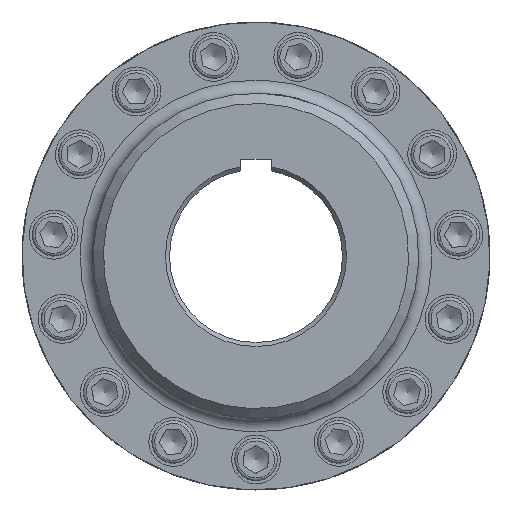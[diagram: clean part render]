
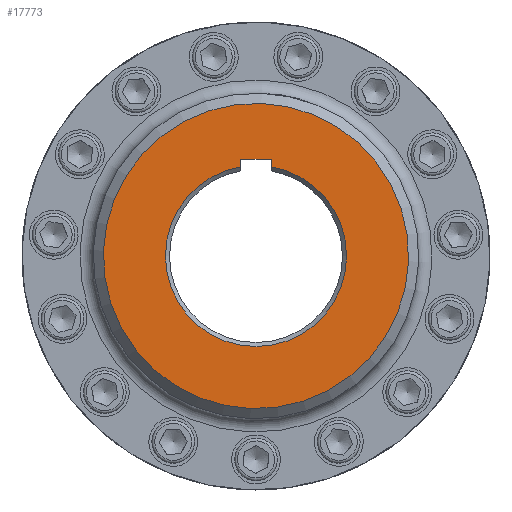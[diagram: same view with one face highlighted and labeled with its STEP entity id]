
A CAD part, left-side view. The second image highlights one B-rep face of the part: STEP entity #17773.
In plain terms, the highlighted planar face has unit normal (-1, 0, 0).
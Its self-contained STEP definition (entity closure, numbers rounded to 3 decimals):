
#834=LINE('',#29371,#1752);
#835=LINE('',#29373,#1753);
#836=LINE('',#29374,#1754);
#1752=VECTOR('',#23449,3.637);
#1753=VECTOR('',#23450,15.);
#1754=VECTOR('',#23451,3.637);
#3155=FACE_BOUND('',#5413,.T.);
#3959=FACE_OUTER_BOUND('',#5412,.T.);
#5412=EDGE_LOOP('',(#13408));
#5413=EDGE_LOOP('',(#13409,#13410,#13411,#13412));
#6617=CIRCLE('',#19504,75.);
#6618=CIRCLE('',#19505,44.5);
#8028=VERTEX_POINT('',#29365);
#8029=VERTEX_POINT('',#29367);
#8030=VERTEX_POINT('',#29368);
#8031=VERTEX_POINT('',#29370);
#8032=VERTEX_POINT('',#29372);
#9932=EDGE_CURVE('',#8028,#8028,#6617,.T.);
#9933=EDGE_CURVE('',#8029,#8030,#6618,.T.);
#9934=EDGE_CURVE('',#8029,#8031,#834,.T.);
#9935=EDGE_CURVE('',#8031,#8032,#835,.T.);
#9936=EDGE_CURVE('',#8032,#8030,#836,.T.);
#13408=ORIENTED_EDGE('',*,*,#9932,.F.);
#13409=ORIENTED_EDGE('',*,*,#9933,.F.);
#13410=ORIENTED_EDGE('',*,*,#9934,.T.);
#13411=ORIENTED_EDGE('',*,*,#9935,.T.);
#13412=ORIENTED_EDGE('',*,*,#9936,.T.);
#15810=PLANE('',#19503);
#17773=ADVANCED_FACE('',(#3959,#3155),#15810,.T.);
#19503=AXIS2_PLACEMENT_3D('',#29364,#23443,#23444);
#19504=AXIS2_PLACEMENT_3D('',#29366,#23445,#23446);
#19505=AXIS2_PLACEMENT_3D('',#29369,#23447,#23448);
#23443=DIRECTION('center_axis',(-1.,0.,0.));
#23444=DIRECTION('ref_axis',(0.,0.208,-0.978));
#23445=DIRECTION('center_axis',(1.,0.,0.));
#23446=DIRECTION('ref_axis',(0.,0.978,0.208));
#23447=DIRECTION('center_axis',(-1.,0.,0.));
#23448=DIRECTION('ref_axis',(0.,0.176,-0.984));
#23449=DIRECTION('',(0.,0.,1.));
#23450=DIRECTION('',(0.,-1.,0.));
#23451=DIRECTION('',(0.,0.,-1.));
#29364=CARTESIAN_POINT('Origin',(-354.75,-51.353,-10.915));
#29365=CARTESIAN_POINT('',(-354.75,-73.361,-15.593));
#29366=CARTESIAN_POINT('Origin',(-354.75,0.,
0.));
#29367=CARTESIAN_POINT('',(-354.75,7.5,43.863));
#29368=CARTESIAN_POINT('',(-354.75,-7.5,43.863));
#29369=CARTESIAN_POINT('Origin',(-354.75,0.,
0.));
#29370=CARTESIAN_POINT('',(-354.75,7.5,47.5));
#29371=CARTESIAN_POINT('',(-354.75,7.5,15.459));
#29372=CARTESIAN_POINT('',(-354.75,-7.5,47.5));
#29373=CARTESIAN_POINT('',(-354.75,-21.926,47.5));
#29374=CARTESIAN_POINT('',(-354.75,-7.5,18.292));
